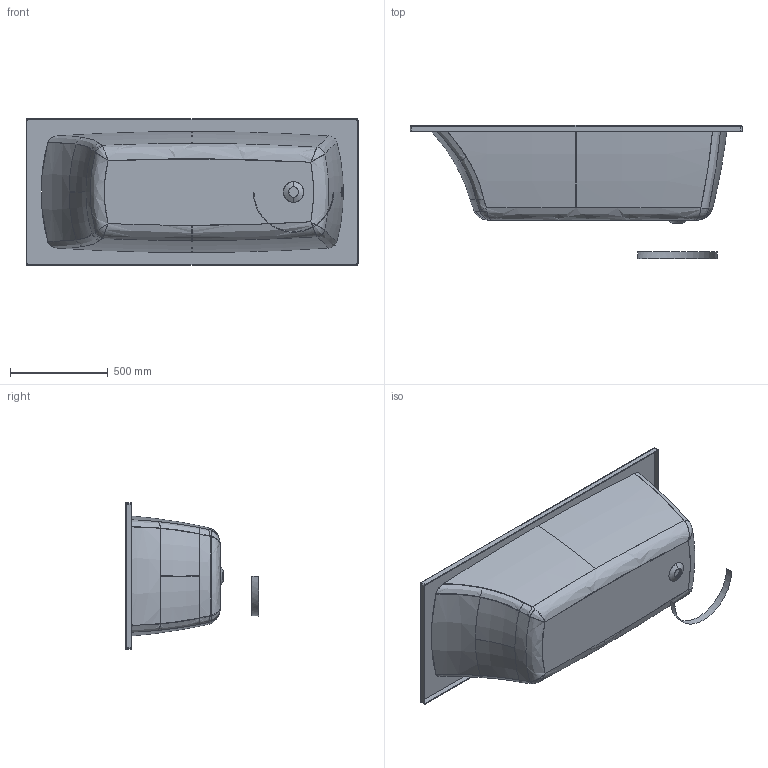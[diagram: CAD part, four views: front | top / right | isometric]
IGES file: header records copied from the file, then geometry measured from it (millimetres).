
Start section: SolidWorks IGES file using analytic representation for surfaces
Global section: file name: D:\Users\M.Szymanski\Desktop\Wanny\Largo\03. do przegrania\gotowe\WP_LA 170x75.IGS; native system: SolidWorks 2011; preprocessor: SolidWorks 2011; author: M.Szymanski; date: 180607.132442; units: millimetre
Bounding box: 1700 x 681.1 x 750 mm (x, y, z)
Surface area: 5493908.1 mm2 (no closed solid volume)
Topology: 0 solids, 0 shells, 124 faces, 1529 edges, 1519 vertices
Faces by surface type: bspline 96, revolution 28
